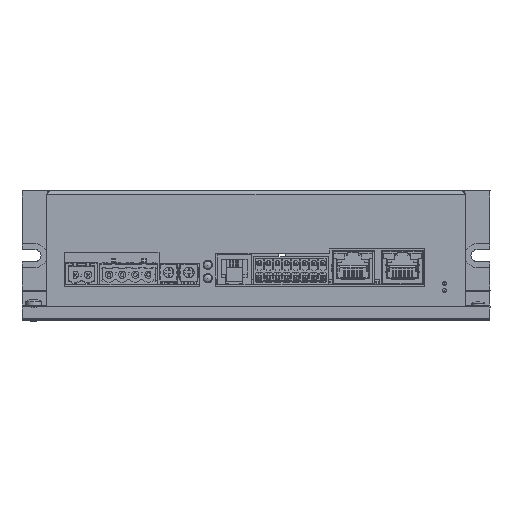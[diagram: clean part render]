
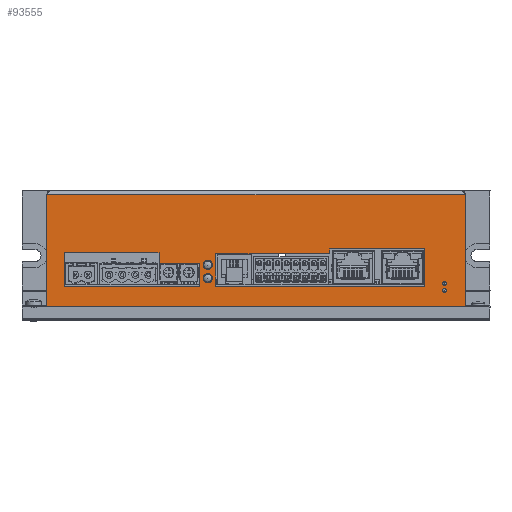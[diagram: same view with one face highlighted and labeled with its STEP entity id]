
A CAD part, top view. The second image highlights one B-rep face of the part: STEP entity #93555.
In plain terms, the highlighted planar face has unit normal (0, 0, 1).
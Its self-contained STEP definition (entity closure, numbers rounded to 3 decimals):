
#4144=CIRCLE('',#100008,0.75);
#4145=CIRCLE('',#100009,0.75);
#4146=CIRCLE('',#100010,1.8);
#4147=CIRCLE('',#100011,1.8);
#24464=ORIENTED_EDGE('',*,*,#36041,.F.);
#24465=ORIENTED_EDGE('',*,*,#36042,.F.);
#24466=ORIENTED_EDGE('',*,*,#36043,.F.);
#24467=ORIENTED_EDGE('',*,*,#36044,.F.);
#24468=ORIENTED_EDGE('',*,*,#36045,.F.);
#24469=ORIENTED_EDGE('',*,*,#36046,.F.);
#24470=ORIENTED_EDGE('',*,*,#36047,.F.);
#24471=ORIENTED_EDGE('',*,*,#36048,.F.);
#24472=ORIENTED_EDGE('',*,*,#36049,.F.);
#24473=ORIENTED_EDGE('',*,*,#36050,.F.);
#24474=ORIENTED_EDGE('',*,*,#36051,.F.);
#24475=ORIENTED_EDGE('',*,*,#36052,.F.);
#24476=ORIENTED_EDGE('',*,*,#36053,.F.);
#24477=ORIENTED_EDGE('',*,*,#36054,.F.);
#24478=ORIENTED_EDGE('',*,*,#36055,.F.);
#24479=ORIENTED_EDGE('',*,*,#36056,.F.);
#24480=ORIENTED_EDGE('',*,*,#35938,.T.);
#24481=ORIENTED_EDGE('',*,*,#36040,.T.);
#24482=ORIENTED_EDGE('',*,*,#36057,.F.);
#24483=ORIENTED_EDGE('',*,*,#35939,.F.);
#35938=EDGE_CURVE('',#43424,#43429,#50838,.T.);
#35939=EDGE_CURVE('',#43424,#43430,#50839,.T.);
#36040=EDGE_CURVE('',#43429,#43523,#50899,.T.);
#36041=EDGE_CURVE('',#43524,#43524,#4144,.F.);
#36042=EDGE_CURVE('',#43525,#43525,#4145,.F.);
#36043=EDGE_CURVE('',#43526,#43527,#50900,.T.);
#36044=EDGE_CURVE('',#43528,#43526,#50901,.T.);
#36045=EDGE_CURVE('',#43529,#43528,#50902,.T.);
#36046=EDGE_CURVE('',#43530,#43529,#50903,.T.);
#36047=EDGE_CURVE('',#43531,#43530,#50904,.T.);
#36048=EDGE_CURVE('',#43527,#43531,#50905,.T.);
#36049=EDGE_CURVE('',#43532,#43533,#50906,.T.);
#36050=EDGE_CURVE('',#43534,#43532,#50907,.T.);
#36051=EDGE_CURVE('',#43535,#43534,#50908,.T.);
#36052=EDGE_CURVE('',#43536,#43535,#50909,.T.);
#36053=EDGE_CURVE('',#43537,#43536,#50910,.T.);
#36054=EDGE_CURVE('',#43533,#43537,#50911,.T.);
#36055=EDGE_CURVE('',#43538,#43538,#4146,.F.);
#36056=EDGE_CURVE('',#43539,#43539,#4147,.F.);
#36057=EDGE_CURVE('',#43430,#43523,#50912,.T.);
#43424=VERTEX_POINT('',#143027);
#43429=VERTEX_POINT('',#143057);
#43430=VERTEX_POINT('',#143061);
#43523=VERTEX_POINT('',#143319);
#43524=VERTEX_POINT('',#143323);
#43525=VERTEX_POINT('',#143325);
#43526=VERTEX_POINT('',#143327);
#43527=VERTEX_POINT('',#143328);
#43528=VERTEX_POINT('',#143330);
#43529=VERTEX_POINT('',#143332);
#43530=VERTEX_POINT('',#143334);
#43531=VERTEX_POINT('',#143336);
#43532=VERTEX_POINT('',#143339);
#43533=VERTEX_POINT('',#143340);
#43534=VERTEX_POINT('',#143342);
#43535=VERTEX_POINT('',#143344);
#43536=VERTEX_POINT('',#143346);
#43537=VERTEX_POINT('',#143348);
#43538=VERTEX_POINT('',#143351);
#43539=VERTEX_POINT('',#143353);
#50838=LINE('',#143058,#58021);
#50839=LINE('',#143060,#58022);
#50899=LINE('',#143320,#58082);
#50900=LINE('',#143326,#58083);
#50901=LINE('',#143329,#58084);
#50902=LINE('',#143331,#58085);
#50903=LINE('',#143333,#58086);
#50904=LINE('',#143335,#58087);
#50905=LINE('',#143337,#58088);
#50906=LINE('',#143338,#58089);
#50907=LINE('',#143341,#58090);
#50908=LINE('',#143343,#58091);
#50909=LINE('',#143345,#58092);
#50910=LINE('',#143347,#58093);
#50911=LINE('',#143349,#58094);
#50912=LINE('',#143354,#58095);
#58021=VECTOR('',#119052,1000.);
#58022=VECTOR('',#119055,1000.);
#58082=VECTOR('',#119195,1000.);
#58083=VECTOR('',#119202,1000.);
#58084=VECTOR('',#119203,1000.);
#58085=VECTOR('',#119204,1000.);
#58086=VECTOR('',#119205,1000.);
#58087=VECTOR('',#119206,1000.);
#58088=VECTOR('',#119207,1000.);
#58089=VECTOR('',#119208,1000.);
#58090=VECTOR('',#119209,1000.);
#58091=VECTOR('',#119210,1000.);
#58092=VECTOR('',#119211,1000.);
#58093=VECTOR('',#119212,1000.);
#58094=VECTOR('',#119213,1000.);
#58095=VECTOR('',#119218,1000.);
#62698=EDGE_LOOP('',(#24464));
#62699=EDGE_LOOP('',(#24465));
#62700=EDGE_LOOP('',(#24466,#24467,#24468,#24469,#24470,#24471));
#62701=EDGE_LOOP('',(#24472,#24473,#24474,#24475,#24476,#24477));
#62702=EDGE_LOOP('',(#24478));
#62703=EDGE_LOOP('',(#24479));
#62704=EDGE_LOOP('',(#24480,#24481,#24482,#24483));
#67487=FACE_BOUND('',#62698,.T.);
#67488=FACE_BOUND('',#62699,.T.);
#67489=FACE_BOUND('',#62700,.T.);
#67490=FACE_BOUND('',#62701,.T.);
#67491=FACE_BOUND('',#62702,.T.);
#67492=FACE_BOUND('',#62703,.T.);
#67493=FACE_BOUND('',#62704,.T.);
#70375=PLANE('',#100007);
#93555=ADVANCED_FACE('',(#67487,#67488,#67489,#67490,#67491,#67492,#67493),
#70375,.F.);
#100007=AXIS2_PLACEMENT_3D('',#143321,#119196,#119197);
#100008=AXIS2_PLACEMENT_3D('',#143322,#119198,#119199);
#100009=AXIS2_PLACEMENT_3D('',#143324,#119200,#119201);
#100010=AXIS2_PLACEMENT_3D('',#143350,#119214,#119215);
#100011=AXIS2_PLACEMENT_3D('',#143352,#119216,#119217);
#119052=DIRECTION('',(0.,-1.,0.));
#119055=DIRECTION('',(1.,0.,0.));
#119195=DIRECTION('',(1.,0.,0.));
#119196=DIRECTION('',(0.,0.,-1.));
#119197=DIRECTION('',(1.,0.,0.));
#119198=DIRECTION('',(0.,0.,-1.));
#119199=DIRECTION('',(0.,1.,0.));
#119200=DIRECTION('',(0.,0.,-1.));
#119201=DIRECTION('',(0.,1.,0.));
#119202=DIRECTION('',(0.,1.,0.));
#119203=DIRECTION('',(1.,0.,0.));
#119204=DIRECTION('',(0.,-1.,0.));
#119205=DIRECTION('',(-1.,0.,0.));
#119206=DIRECTION('',(0.,-1.,0.));
#119207=DIRECTION('',(-1.,0.,0.));
#119208=DIRECTION('',(1.,0.,0.));
#119209=DIRECTION('',(0.,-1.,0.));
#119210=DIRECTION('',(-1.,0.,0.));
#119211=DIRECTION('',(0.,1.,0.));
#119212=DIRECTION('',(-1.,0.,0.));
#119213=DIRECTION('',(0.,1.,0.));
#119214=DIRECTION('',(0.,0.,-1.));
#119215=DIRECTION('',(0.,1.,0.));
#119216=DIRECTION('',(0.,0.,-1.));
#119217=DIRECTION('',(0.,1.,0.));
#119218=DIRECTION('',(0.,-1.,0.));
#143027=CARTESIAN_POINT('',(-80.75,-1.7,62.5));
#143057=CARTESIAN_POINT('',(-80.75,-45.,62.5));
#143058=CARTESIAN_POINT('',(-80.75,0.,62.5));
#143060=CARTESIAN_POINT('',(-80.75,-1.7,62.5));
#143061=CARTESIAN_POINT('',(80.75,-1.7,62.5));
#143319=CARTESIAN_POINT('',(80.75,-45.,62.5));
#143320=CARTESIAN_POINT('',(80.75,-45.,62.5));
#143321=CARTESIAN_POINT('',(80.75,0.,62.5));
#143322=CARTESIAN_POINT('',(72.75,-36.,62.5));
#143323=CARTESIAN_POINT('',(72.75,-35.25,62.5));
#143324=CARTESIAN_POINT('',(72.75,-38.6,62.5));
#143325=CARTESIAN_POINT('',(72.75,-37.85,62.5));
#143326=CARTESIAN_POINT('',(65.25,0.,62.5));
#143327=CARTESIAN_POINT('',(65.25,-37.,62.5));
#143328=CARTESIAN_POINT('',(65.25,-22.6,62.5));
#143329=CARTESIAN_POINT('',(80.75,-37.,62.5));
#143330=CARTESIAN_POINT('',(-15.55,-37.,62.5));
#143331=CARTESIAN_POINT('',(-15.55,0.,62.5));
#143332=CARTESIAN_POINT('',(-15.55,-24.4,62.5));
#143333=CARTESIAN_POINT('',(80.75,-24.4,62.5));
#143334=CARTESIAN_POINT('',(28.45,-24.4,62.5));
#143335=CARTESIAN_POINT('',(28.45,0.,62.5));
#143336=CARTESIAN_POINT('',(28.45,-22.6,62.5));
#143337=CARTESIAN_POINT('',(80.75,-22.6,62.5));
#143338=CARTESIAN_POINT('',(80.75,-37.,62.5));
#143339=CARTESIAN_POINT('',(-74.05,-37.,62.5));
#143340=CARTESIAN_POINT('',(-21.75,-37.,62.5));
#143341=CARTESIAN_POINT('',(-74.05,0.,62.5));
#143342=CARTESIAN_POINT('',(-74.05,-24.,62.5));
#143343=CARTESIAN_POINT('',(80.75,-24.,62.5));
#143344=CARTESIAN_POINT('',(-37.45,-24.,62.5));
#143345=CARTESIAN_POINT('',(-37.45,0.,62.5));
#143346=CARTESIAN_POINT('',(-37.45,-28.3,62.5));
#143347=CARTESIAN_POINT('',(80.75,-28.3,62.5));
#143348=CARTESIAN_POINT('',(-21.75,-28.3,62.5));
#143349=CARTESIAN_POINT('',(-21.75,0.,62.5));
#143350=CARTESIAN_POINT('',(-18.65,-28.8,62.5));
#143351=CARTESIAN_POINT('',(-18.65,-27.,62.5));
#143352=CARTESIAN_POINT('',(-18.65,-33.9,62.5));
#143353=CARTESIAN_POINT('',(-18.65,-32.1,62.5));
#143354=CARTESIAN_POINT('',(80.75,-23.35,62.5));
